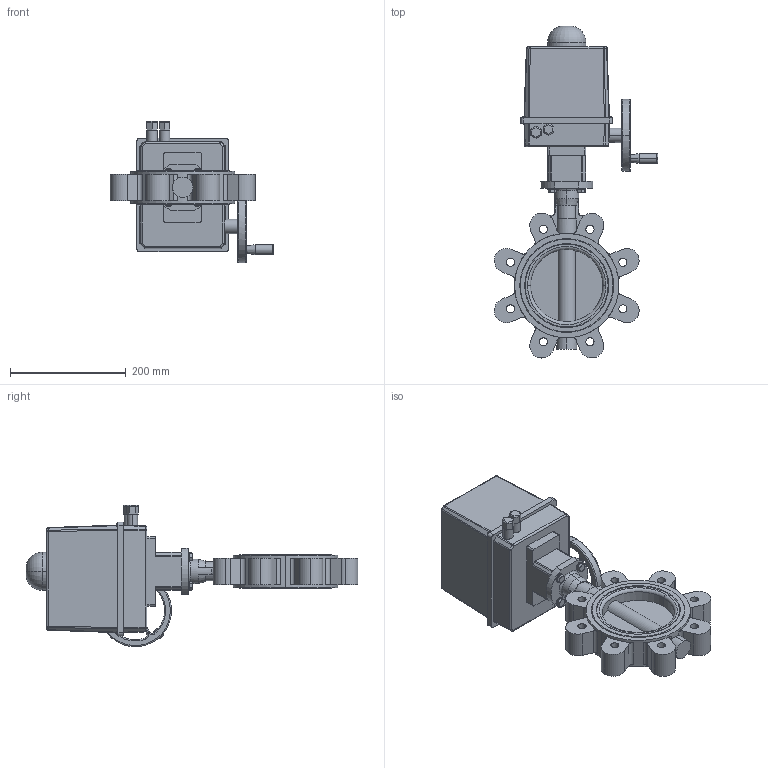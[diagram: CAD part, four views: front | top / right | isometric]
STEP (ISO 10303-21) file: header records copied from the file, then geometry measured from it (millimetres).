
FILE_DESCRIPTION (( 'STEP AP214' ), '1' );
FILE_NAME ('67664.step', '2020-10-26T06:44:33', ( '' ), ( '' ), 'SwSTEP 2.0', 'SolidWorks 2019', '' );
FILE_SCHEMA (( 'AUTOMOTIVE_DESIGN' ));
Length unit declared in the file: millimetre
Products named in the file (6): TL20-0125_M01; PSQ 103_PSQ 103-36-24VDC-F07; 67664; Steckkupplung PSQ 103_PSQ 103 VK-14; 6kt-Schr DIN 933_M8x25; U-Scheibe DIN 125 A_M8
Assembly tree (11 placements, depth 2):
  67664
    TL20-0125_M01
    PSQ 103_PSQ 103-36-24VDC-F07
    Steckkupplung PSQ 103_PSQ 103 VK-14
    6kt-Schr DIN 933_M8x25  x4
    U-Scheibe DIN 125 A_M8  x4
Bounding box: 281.94 x 572.93 x 244 mm (x, y, z)
Volume: 6743889.3 mm3; surface area: 438129.7 mm2
Topology: 11 solids, 11 shells, 847 faces, 2175 edges, 1354 vertices
Faces by surface type: cylinder 363, plane 338, cone 64, torus 60, sphere 16, bspline 6
Entity records: 27491 total; most frequent: CARTESIAN_POINT 5070, DIRECTION 4151, ORIENTED_EDGE 3870, EDGE_CURVE 1935, AXIS2_PLACEMENT_3D 1567, VERTEX_POINT 1234, VECTOR 1017, LINE 1017
